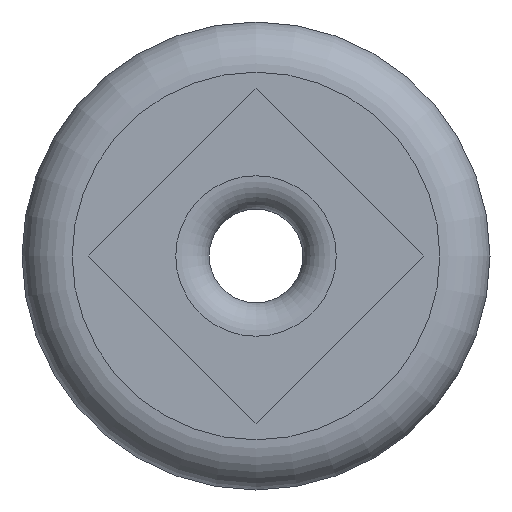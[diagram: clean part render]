
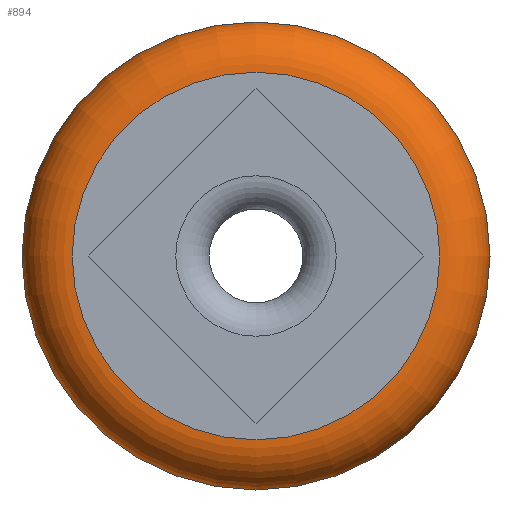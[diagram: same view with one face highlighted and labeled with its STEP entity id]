
A CAD part, front view. The second image highlights one B-rep face of the part: STEP entity #894.
In plain terms, the highlighted toroidal (fillet/blend) face has major radius 13.97 mm and minor radius 3.81 mm.
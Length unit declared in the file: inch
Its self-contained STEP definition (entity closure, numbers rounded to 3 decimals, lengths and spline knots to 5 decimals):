
#33=TOROIDAL_SURFACE('',#982,0.55,0.15);
#48=CIRCLE('',#961,0.7);
#49=CIRCLE('',#962,0.7);
#61=CIRCLE('',#983,0.15);
#62=CIRCLE('',#984,0.55);
#63=CIRCLE('',#985,0.55);
#109=FACE_OUTER_BOUND('',#161,.T.);
#161=EDGE_LOOP('',(#778,#779,#780,#781,#782,#783));
#387=VERTEX_POINT('',#2838);
#388=VERTEX_POINT('',#2840);
#398=VERTEX_POINT('',#4526);
#399=VERTEX_POINT('',#4528);
#507=EDGE_CURVE('',#388,#387,#48,.T.);
#508=EDGE_CURVE('',#387,#388,#49,.T.);
#528=EDGE_CURVE('',#388,#398,#61,.T.);
#529=EDGE_CURVE('',#398,#399,#62,.T.);
#530=EDGE_CURVE('',#399,#398,#63,.T.);
#778=ORIENTED_EDGE('',*,*,#508,.T.);
#779=ORIENTED_EDGE('',*,*,#528,.T.);
#780=ORIENTED_EDGE('',*,*,#529,.T.);
#781=ORIENTED_EDGE('',*,*,#530,.T.);
#782=ORIENTED_EDGE('',*,*,#528,.F.);
#783=ORIENTED_EDGE('',*,*,#507,.T.);
#894=ADVANCED_FACE('',(#109),#33,.T.);
#961=AXIS2_PLACEMENT_3D('',#2841,#1120,#1121);
#962=AXIS2_PLACEMENT_3D('',#2842,#1122,#1123);
#982=AXIS2_PLACEMENT_3D('',#4525,#1163,#1164);
#983=AXIS2_PLACEMENT_3D('',#4527,#1165,#1166);
#984=AXIS2_PLACEMENT_3D('',#4529,#1167,#1168);
#985=AXIS2_PLACEMENT_3D('',#4530,#1169,#1170);
#1120=DIRECTION('center_axis',(0.,-1.,0.));
#1121=DIRECTION('ref_axis',(1.,0.,0.));
#1122=DIRECTION('center_axis',(0.,-1.,0.));
#1123=DIRECTION('ref_axis',(1.,0.,0.));
#1163=DIRECTION('center_axis',(0.,1.,0.));
#1164=DIRECTION('ref_axis',(0.,0.,1.));
#1165=DIRECTION('center_axis',(-1.,0.,0.));
#1166=DIRECTION('ref_axis',(0.,0.,-1.));
#1167=DIRECTION('center_axis',(0.,1.,0.));
#1168=DIRECTION('ref_axis',(1.,0.,0.));
#1169=DIRECTION('center_axis',(0.,1.,0.));
#1170=DIRECTION('ref_axis',(1.,0.,0.));
#2838=CARTESIAN_POINT('',(-0.7,0.15,0.));
#2840=CARTESIAN_POINT('',(0.,0.15,-0.7));
#2841=CARTESIAN_POINT('Origin',(0.,0.15,0.));
#2842=CARTESIAN_POINT('Origin',(0.,0.15,0.));
#4525=CARTESIAN_POINT('Origin',(0.,0.15,0.));
#4526=CARTESIAN_POINT('',(0.,0.,-0.55));
#4527=CARTESIAN_POINT('Origin',(0.,0.15,-0.55));
#4528=CARTESIAN_POINT('',(-0.55,0.,0.));
#4529=CARTESIAN_POINT('Origin',(0.,0.,0.));
#4530=CARTESIAN_POINT('Origin',(0.,0.,0.));
